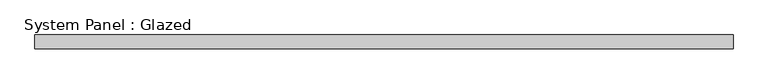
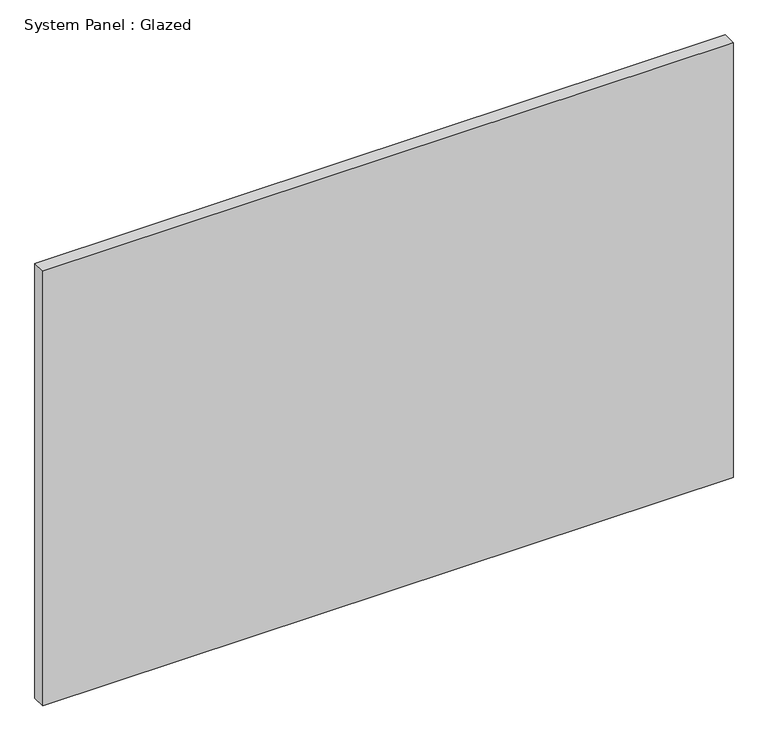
"""IFC4 building model written with IfcOpenShell, lengths in millimetres: plate geometry, System Panel : Glazed."""

from ifc_helpers import new_model, si_unit, origin, origin_with_axes, place, context, project, spatial, polyline, outline, extrude, source, transform, mapped, element, save


def system_panel_glazed_b341cb2b(model_context):
    return source(origin(), model_context, "Body", "SweptSolid", [
        extrude(outline(polyline([(648.1535714, 19.05), (-648.1535714, 19.05), (-648.1535714, 44.45), (648.1535714, 44.45), (648.1535714, 19.05)])), origin_with_axes(), (0.0, 0.0, 1.0), 863.6),
    ])


if __name__ == "__main__":
    model = new_model("IFC4")
    model_context = context("Model", 3, world=origin())
    ifc_project = project(units=[si_unit("LENGTHUNIT", "METRE", prefix="MILLI")], contexts=[model_context])
    site = spatial("IfcSite", under=ifc_project)
    building = spatial("IfcBuilding", under=site)
    placement = place(None, origin())
    system_panel_glazed_shape = system_panel_glazed_b341cb2b(model_context)
    element("IfcPlate", 1, ObjectType="System Panel : Glazed", at=placement, inside=building, context=model_context, shape_type="MappedRepresentation", body=[
        mapped(system_panel_glazed_shape, transform((0.0, 0.0, 0.0), x_axis=(1.0, 0.0, 0.0), y_axis=(0.0, 1.0, 0.0), z_axis=(0.0, 0.0, 1.0))),
    ])
    save(model, "model.ifc")
